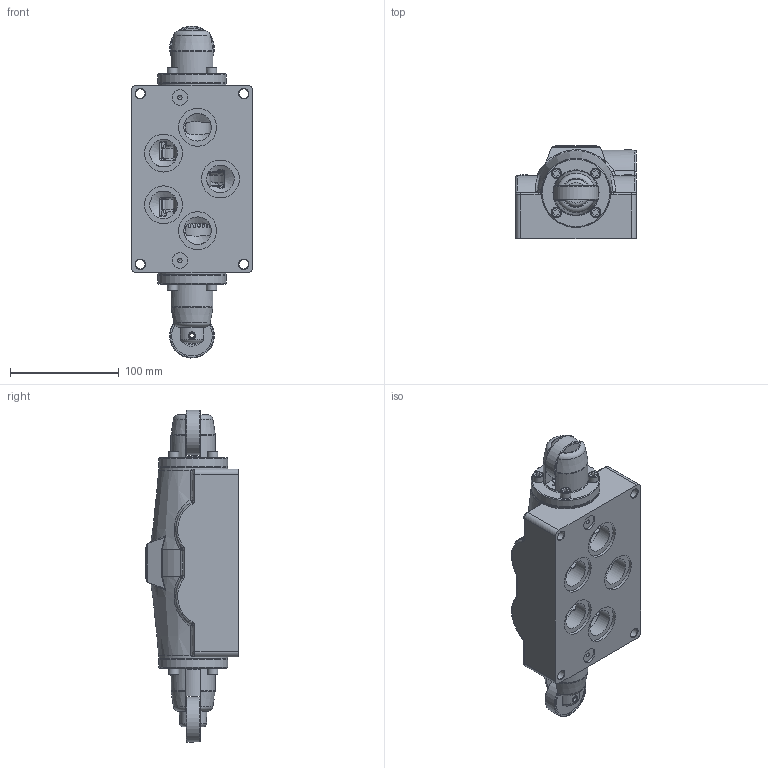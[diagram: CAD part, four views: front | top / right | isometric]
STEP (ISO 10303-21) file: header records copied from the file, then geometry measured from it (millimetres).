
FILE_DESCRIPTION(/* description */ (''),/* implementation_level */ '2;1');
FILE_NAME(/* name */ 'D:\Website Files\stp\Valves\Cam\CC\CC8PR.stp',/* time_stamp */ '2015-09-23T07:16:05-04:00',/* author */ ('RMcKenna'),/* organization */ (''),/* preprocessor_version */ 'ST-DEVELOPER v15.6',/* originating_system */ 'Autodesk Inventor 2015',/* authorisation */ '');
FILE_SCHEMA (('AUTOMOTIVE_DESIGN { 1 0 10303 214 3 1 1 }'));
Products named in the file (1): Part85
Bounding box: 111.12 x 86.27 x 305.81 mm (x, y, z)
Volume: 1193755 mm3; surface area: 208183.7 mm2
Topology: 2 solids, 26 shells, 1689 faces, 4049 edges, 2488 vertices
Faces by surface type: plane 553, cylinder 371, cone 284, bspline 238, torus 179, sphere 64
Full cylindrical faces by diameter (mm): 2.07 x2, 2.261 x2, 2.778 x2, 3.962 x4, 4.978 x8, 6.35 x12, 6.731 x8, 7.144 x8, 8.712 x4, 9.525 x8, 14.275 x2, 15.081 x1, 15.875 x3, 17.323 x1, 19.253 x2, 19.685 x4, 24.479 x2, 25.273 x2, 25.4 x5, 28.575 x2, 34.29 x2, 34.569 x1, 34.671 x12, 34.925 x7, 35.052 x2, 37.465 x4, 40.878 x2, 41.275 x2, 41.478 x6, 62.706 x2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
Entity records: 68995 total; most frequent: CARTESIAN_POINT 31530, ORIENTED_EDGE 7420, DIRECTION 6984, EDGE_CURVE 3710, AXIS2_PLACEMENT_3D 2844, VERTEX_POINT 2394, EDGE_LOOP 2066, FACE_OUTER_BOUND 1689
